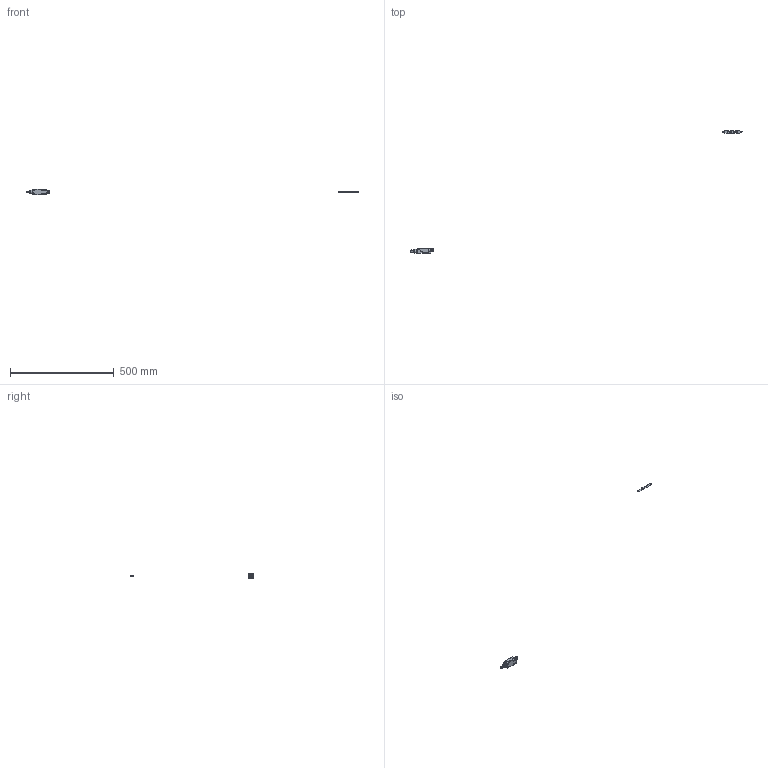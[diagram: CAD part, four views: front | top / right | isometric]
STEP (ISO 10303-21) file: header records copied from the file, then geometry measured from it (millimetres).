
FILE_DESCRIPTION(('FreeCAD Model'),'2;1');
FILE_NAME('Open CASCADE Shape Model','2026-09-09T09:32:32',(''),(''), 'Open CASCADE STEP processor 7.8','FreeCAD','Unknown');
FILE_SCHEMA(('AUTOMOTIVE_DESIGN { 1 0 10303 214 1 1 1 1 }'));
Length unit declared in the file: millimetre
Products named in the file (9): FM8122; 8112quan3d; 8112quan3d001; 8112quan3d002; 8112quan3d003; 8112quan3d004; 8112quan3d005; 8112quan3d006; 8112quan3d007
Assembly tree (8 placements, depth 2):
  FM8122
    8112quan3d
    8112quan3d001
    8112quan3d002
    8112quan3d003
    8112quan3d004
    8112quan3d005
    8112quan3d006
    8112quan3d007
Bounding box: 1602.44 x 593.57 x 28.8 mm (x, y, z)
Volume: 31038.1 mm3; surface area: 22053.1 mm2
Topology: 8 solids, 8 shells, 197 faces, 480 edges, 301 vertices
Faces by surface type: plane 100, cylinder 58, cone 24, extrusion 7, sphere 6, bspline 2
Full cylindrical faces by diameter (mm): 3 x3, 4.1 x4, 5 x2, 6 x2, 12.5 x1, 18 x1
Entity records: 8894 total; most frequent: CARTESIAN_POINT 4062, DIRECTION 959, ORIENTED_EDGE 948, EDGE_CURVE 474, AXIS2_PLACEMENT_3D 348, VERTEX_POINT 301, VECTOR 263, LINE 256
